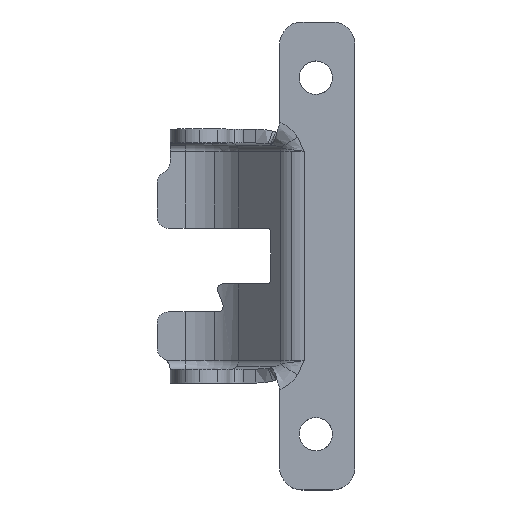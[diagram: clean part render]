
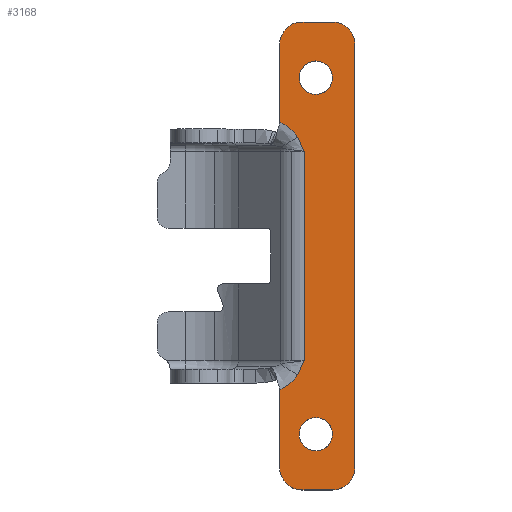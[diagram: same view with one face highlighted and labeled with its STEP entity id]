
A CAD part, top view. The second image highlights one B-rep face of the part: STEP entity #3168.
In plain terms, the highlighted planar face has unit normal (0, 0, 1).
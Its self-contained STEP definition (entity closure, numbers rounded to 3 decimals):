
#2123=AXIS2_PLACEMENT_3D('Circle Axis2P3D',#2121,#2122,$) ;
#2154=AXIS2_PLACEMENT_3D('Circle Axis2P3D',#2152,#2153,$) ;
#2202=AXIS2_PLACEMENT_3D('Circle Axis2P3D',#2200,#2201,$) ;
#2226=AXIS2_PLACEMENT_3D('Circle Axis2P3D',#2224,#2225,$) ;
#2274=AXIS2_PLACEMENT_3D('Circle Axis2P3D',#2272,#2273,$) ;
#2298=AXIS2_PLACEMENT_3D('Circle Axis2P3D',#2296,#2297,$) ;
#2484=AXIS2_PLACEMENT_3D('Circle Axis2P3D',#2482,#2483,$) ;
#2508=AXIS2_PLACEMENT_3D('Circle Axis2P3D',#2506,#2507,$) ;
#2549=AXIS2_PLACEMENT_3D('Circle Axis2P3D',#2547,#2548,$) ;
#2573=AXIS2_PLACEMENT_3D('Circle Axis2P3D',#2571,#2572,$) ;
#2597=AXIS2_PLACEMENT_3D('Circle Axis2P3D',#2595,#2596,$) ;
#2621=AXIS2_PLACEMENT_3D('Circle Axis2P3D',#2619,#2620,$) ;
#3127=AXIS2_PLACEMENT_3D('Plane Axis2P3D',#3124,#3125,#3126) ;
#1287=CARTESIAN_POINT('Vertex',(147.5,-24.01,28.)) ;
#2078=CARTESIAN_POINT('Vertex',(151.914,-18.8,28.)) ;
#2118=CARTESIAN_POINT('Vertex',(159.828,-40.828,28.)) ;
#2121=CARTESIAN_POINT('Axis2P3D Location',(157.,-38.,28.)) ;
#2125=CARTESIAN_POINT('Vertex',(157.,-42.,28.)) ;
#2149=CARTESIAN_POINT('Vertex',(161.,-38.,28.)) ;
#2152=CARTESIAN_POINT('Axis2P3D Location',(157.,-38.,28.)) ;
#2173=CARTESIAN_POINT('Vertex',(161.,38.,28.)) ;
#2176=CARTESIAN_POINT('Line Origine',(161.,0.,28.)) ;
#2197=CARTESIAN_POINT('Vertex',(159.828,40.828,28.)) ;
#2200=CARTESIAN_POINT('Axis2P3D Location',(157.,38.,28.)) ;
#2221=CARTESIAN_POINT('Vertex',(157.,42.,28.)) ;
#2224=CARTESIAN_POINT('Axis2P3D Location',(157.,38.,28.)) ;
#2245=CARTESIAN_POINT('Vertex',(151.5,42.,28.)) ;
#2248=CARTESIAN_POINT('Line Origine',(154.25,42.,28.)) ;
#2269=CARTESIAN_POINT('Vertex',(148.672,40.828,28.)) ;
#2272=CARTESIAN_POINT('Axis2P3D Location',(151.5,38.,28.)) ;
#2293=CARTESIAN_POINT('Vertex',(147.5,38.,28.)) ;
#2296=CARTESIAN_POINT('Axis2P3D Location',(151.5,38.,28.)) ;
#2340=CARTESIAN_POINT('Control Point',(151.914,-18.8,28.)) ;
#2341=CARTESIAN_POINT('Control Point',(151.689,-19.357,28.)) ;
#2342=CARTESIAN_POINT('Control Point',(151.454,-19.91,28.)) ;
#2343=CARTESIAN_POINT('Control Point',(151.193,-20.54,28.)) ;
#2344=CARTESIAN_POINT('Control Point',(150.723,-21.322,28.)) ;
#2345=CARTESIAN_POINT('Vertex',(150.723,-21.322,28.)) ;
#2426=CARTESIAN_POINT('Control Point',(150.723,-21.322,28.)) ;
#2427=CARTESIAN_POINT('Control Point',(150.419,-21.825,28.)) ;
#2428=CARTESIAN_POINT('Control Point',(150.05,-22.283,28.)) ;
#2429=CARTESIAN_POINT('Control Point',(149.632,-22.69,28.)) ;
#2430=CARTESIAN_POINT('Control Point',(148.964,-23.222,28.)) ;
#2431=CARTESIAN_POINT('Control Point',(148.238,-23.652,28.)) ;
#2432=CARTESIAN_POINT('Control Point',(147.996,-23.781,28.)) ;
#2433=CARTESIAN_POINT('Control Point',(147.75,-23.901,28.)) ;
#2434=CARTESIAN_POINT('Control Point',(147.5,-24.01,28.)) ;
#2455=CARTESIAN_POINT('Vertex',(147.5,-38.,28.)) ;
#2458=CARTESIAN_POINT('Line Origine',(147.5,-31.005,28.)) ;
#2479=CARTESIAN_POINT('Vertex',(148.672,-40.828,28.)) ;
#2482=CARTESIAN_POINT('Axis2P3D Location',(151.5,-38.,28.)) ;
#2503=CARTESIAN_POINT('Vertex',(151.5,-42.,28.)) ;
#2506=CARTESIAN_POINT('Axis2P3D Location',(151.5,-38.,28.)) ;
#2523=CARTESIAN_POINT('Line Origine',(154.25,-42.,28.)) ;
#2544=CARTESIAN_POINT('Vertex',(154.,-29.,28.)) ;
#2547=CARTESIAN_POINT('Axis2P3D Location',(154.,-32.,28.)) ;
#2551=CARTESIAN_POINT('Vertex',(154.,-35.,28.)) ;
#2571=CARTESIAN_POINT('Axis2P3D Location',(154.,-32.,28.)) ;
#2592=CARTESIAN_POINT('Vertex',(154.,29.,28.)) ;
#2595=CARTESIAN_POINT('Axis2P3D Location',(154.,32.,28.)) ;
#2599=CARTESIAN_POINT('Vertex',(154.,35.,28.)) ;
#2619=CARTESIAN_POINT('Axis2P3D Location',(154.,32.,28.)) ;
#2643=CARTESIAN_POINT('Vertex',(147.5,24.01,28.)) ;
#2646=CARTESIAN_POINT('Line Origine',(147.5,31.005,28.)) ;
#3041=CARTESIAN_POINT('Line Origine',(151.914,0.,28.)) ;
#3045=CARTESIAN_POINT('Vertex',(151.914,18.8,28.)) ;
#3099=CARTESIAN_POINT('Vertex',(150.723,21.322,28.)) ;
#3112=CARTESIAN_POINT('Control Point',(151.914,18.8,28.)) ;
#3113=CARTESIAN_POINT('Control Point',(151.689,19.357,28.)) ;
#3114=CARTESIAN_POINT('Control Point',(151.454,19.91,28.)) ;
#3115=CARTESIAN_POINT('Control Point',(151.193,20.54,28.)) ;
#3116=CARTESIAN_POINT('Control Point',(150.723,21.322,28.)) ;
#3124=CARTESIAN_POINT('Axis2P3D Location',(151.914,0.,28.)) ;
#3130=CARTESIAN_POINT('Control Point',(150.723,21.322,28.)) ;
#3131=CARTESIAN_POINT('Control Point',(150.472,21.737,28.)) ;
#3132=CARTESIAN_POINT('Control Point',(150.176,22.123,28.)) ;
#3133=CARTESIAN_POINT('Control Point',(149.843,22.476,28.)) ;
#3134=CARTESIAN_POINT('Control Point',(149.203,23.045,28.)) ;
#3135=CARTESIAN_POINT('Control Point',(148.492,23.511,28.)) ;
#3136=CARTESIAN_POINT('Control Point',(148.169,23.696,28.)) ;
#3137=CARTESIAN_POINT('Control Point',(147.838,23.862,28.)) ;
#3138=CARTESIAN_POINT('Control Point',(147.5,24.01,28.)) ;
#2122=DIRECTION('Axis2P3D Direction',(0.,0.,-1.)) ;
#2153=DIRECTION('Axis2P3D Direction',(0.,0.,-1.)) ;
#2177=DIRECTION('Vector Direction',(0.,-1.,0.)) ;
#2201=DIRECTION('Axis2P3D Direction',(0.,0.,-1.)) ;
#2225=DIRECTION('Axis2P3D Direction',(0.,-0.,-1.)) ;
#2249=DIRECTION('Vector Direction',(1.,0.,0.)) ;
#2273=DIRECTION('Axis2P3D Direction',(0.,0.,-1.)) ;
#2297=DIRECTION('Axis2P3D Direction',(0.,-0.,-1.)) ;
#2459=DIRECTION('Vector Direction',(0.,-1.,0.)) ;
#2483=DIRECTION('Axis2P3D Direction',(-0.,0.,-1.)) ;
#2507=DIRECTION('Axis2P3D Direction',(0.,0.,-1.)) ;
#2524=DIRECTION('Vector Direction',(-1.,0.,0.)) ;
#2548=DIRECTION('Axis2P3D Direction',(0.,-0.,1.)) ;
#2572=DIRECTION('Axis2P3D Direction',(0.,0.,1.)) ;
#2596=DIRECTION('Axis2P3D Direction',(0.,0.,1.)) ;
#2620=DIRECTION('Axis2P3D Direction',(0.,-0.,1.)) ;
#2647=DIRECTION('Vector Direction',(0.,1.,0.)) ;
#3042=DIRECTION('Vector Direction',(0.,-1.,0.)) ;
#3125=DIRECTION('Axis2P3D Direction',(0.,-0.,-1.)) ;
#3126=DIRECTION('Axis2P3D XDirection',(1.,0.,-0.)) ;
#2178=VECTOR('Line Direction',#2177,1.) ;
#2250=VECTOR('Line Direction',#2249,1.) ;
#2460=VECTOR('Line Direction',#2459,1.) ;
#2525=VECTOR('Line Direction',#2524,1.) ;
#2648=VECTOR('Line Direction',#2647,1.) ;
#3043=VECTOR('Line Direction',#3042,1.) ;
#3141=ORIENTED_EDGE('',*,*,#2127,.F.) ;
#3142=ORIENTED_EDGE('',*,*,#2156,.F.) ;
#3143=ORIENTED_EDGE('',*,*,#2180,.F.) ;
#3144=ORIENTED_EDGE('',*,*,#2204,.F.) ;
#3145=ORIENTED_EDGE('',*,*,#2228,.F.) ;
#3146=ORIENTED_EDGE('',*,*,#2252,.F.) ;
#3147=ORIENTED_EDGE('',*,*,#2276,.F.) ;
#3148=ORIENTED_EDGE('',*,*,#2300,.F.) ;
#3149=ORIENTED_EDGE('',*,*,#2650,.F.) ;
#3150=ORIENTED_EDGE('',*,*,#3139,.F.) ;
#3151=ORIENTED_EDGE('',*,*,#3117,.F.) ;
#3152=ORIENTED_EDGE('',*,*,#3047,.T.) ;
#3153=ORIENTED_EDGE('',*,*,#2347,.T.) ;
#3154=ORIENTED_EDGE('',*,*,#2435,.T.) ;
#3155=ORIENTED_EDGE('',*,*,#2462,.T.) ;
#3156=ORIENTED_EDGE('',*,*,#2486,.T.) ;
#3157=ORIENTED_EDGE('',*,*,#2510,.T.) ;
#3158=ORIENTED_EDGE('',*,*,#2527,.F.) ;
#3161=ORIENTED_EDGE('',*,*,#2553,.T.) ;
#3162=ORIENTED_EDGE('',*,*,#2575,.T.) ;
#3165=ORIENTED_EDGE('',*,*,#2601,.T.) ;
#3166=ORIENTED_EDGE('',*,*,#2623,.T.) ;
#3163=FACE_BOUND('',#3160,.T.) ;
#3167=FACE_BOUND('',#3164,.T.) ;
#3168=ADVANCED_FACE('\X2\66F46539540E\X0\',(#3159,#3163,#3167),#3128,.F.) ;
#2339=B_SPLINE_CURVE_WITH_KNOTS('',4,(#2340,#2341,#2342,#2343,#2344),.UNSPECIFIED.,.F.,.U.,(5,5),(0.,3.602),.UNSPECIFIED.) ;
#2425=B_SPLINE_CURVE_WITH_KNOTS('',5,(#2426,#2427,#2428,#2429,#2430,#2431,#2432,#2433,#2434),.UNSPECIFIED.,.F.,.U.,(6,3,6),(19.433,21.517,22.525),.UNSPECIFIED.) ;
#3111=B_SPLINE_CURVE_WITH_KNOTS('',4,(#3112,#3113,#3114,#3115,#3116),.UNSPECIFIED.,.F.,.U.,(5,5),(0.,3.602),.UNSPECIFIED.) ;
#3129=B_SPLINE_CURVE_WITH_KNOTS('',5,(#3130,#3131,#3132,#3133,#3134,#3135,#3136,#3137,#3138),.UNSPECIFIED.,.F.,.U.,(6,3,6),(0.,3.397,6.037),.UNSPECIFIED.) ;
#2124=CIRCLE('generated circle',#2123,4.) ;
#2155=CIRCLE('generated circle',#2154,4.) ;
#2203=CIRCLE('generated circle',#2202,4.) ;
#2227=CIRCLE('generated circle',#2226,4.) ;
#2275=CIRCLE('generated circle',#2274,4.) ;
#2299=CIRCLE('generated circle',#2298,4.) ;
#2485=CIRCLE('generated circle',#2484,4.) ;
#2509=CIRCLE('generated circle',#2508,4.) ;
#2550=CIRCLE('generated circle',#2549,3.) ;
#2574=CIRCLE('generated circle',#2573,3.) ;
#2598=CIRCLE('generated circle',#2597,3.) ;
#2622=CIRCLE('generated circle',#2621,3.) ;
#2127=EDGE_CURVE('',#2119,#2126,#2124,.T.) ;
#2156=EDGE_CURVE('',#2150,#2119,#2155,.T.) ;
#2180=EDGE_CURVE('',#2174,#2150,#2179,.T.) ;
#2204=EDGE_CURVE('',#2198,#2174,#2203,.T.) ;
#2228=EDGE_CURVE('',#2222,#2198,#2227,.T.) ;
#2252=EDGE_CURVE('',#2246,#2222,#2251,.T.) ;
#2276=EDGE_CURVE('',#2270,#2246,#2275,.T.) ;
#2300=EDGE_CURVE('',#2294,#2270,#2299,.T.) ;
#2347=EDGE_CURVE('',#2079,#2346,#2339,.T.) ;
#2435=EDGE_CURVE('',#2346,#1288,#2425,.T.) ;
#2462=EDGE_CURVE('',#1288,#2456,#2461,.T.) ;
#2486=EDGE_CURVE('',#2456,#2480,#2485,.F.) ;
#2510=EDGE_CURVE('',#2480,#2504,#2509,.F.) ;
#2527=EDGE_CURVE('',#2126,#2504,#2526,.T.) ;
#2553=EDGE_CURVE('',#2552,#2545,#2550,.F.) ;
#2575=EDGE_CURVE('',#2545,#2552,#2574,.F.) ;
#2601=EDGE_CURVE('',#2600,#2593,#2598,.F.) ;
#2623=EDGE_CURVE('',#2593,#2600,#2622,.F.) ;
#2650=EDGE_CURVE('',#2644,#2294,#2649,.T.) ;
#3047=EDGE_CURVE('',#3046,#2079,#3044,.T.) ;
#3117=EDGE_CURVE('',#3046,#3100,#3111,.T.) ;
#3139=EDGE_CURVE('',#3100,#2644,#3129,.T.) ;
#3140=EDGE_LOOP('',(#3141,#3142,#3143,#3144,#3145,#3146,#3147,#3148,#3149,#3150,#3151,#3152,#3153,#3154,#3155,#3156,#3157,#3158)) ;
#3160=EDGE_LOOP('',(#3161,#3162)) ;
#3164=EDGE_LOOP('',(#3165,#3166)) ;
#3159=FACE_OUTER_BOUND('',#3140,.T.) ;
#2179=LINE('Line',#2176,#2178) ;
#2251=LINE('Line',#2248,#2250) ;
#2461=LINE('Line',#2458,#2460) ;
#2526=LINE('Line',#2523,#2525) ;
#2649=LINE('Line',#2646,#2648) ;
#3044=LINE('Line',#3041,#3043) ;
#3128=PLANE('Plane',#3127) ;
#1288=VERTEX_POINT('',#1287) ;
#2079=VERTEX_POINT('',#2078) ;
#2119=VERTEX_POINT('',#2118) ;
#2126=VERTEX_POINT('',#2125) ;
#2150=VERTEX_POINT('',#2149) ;
#2174=VERTEX_POINT('',#2173) ;
#2198=VERTEX_POINT('',#2197) ;
#2222=VERTEX_POINT('',#2221) ;
#2246=VERTEX_POINT('',#2245) ;
#2270=VERTEX_POINT('',#2269) ;
#2294=VERTEX_POINT('',#2293) ;
#2346=VERTEX_POINT('',#2345) ;
#2456=VERTEX_POINT('',#2455) ;
#2480=VERTEX_POINT('',#2479) ;
#2504=VERTEX_POINT('',#2503) ;
#2545=VERTEX_POINT('',#2544) ;
#2552=VERTEX_POINT('',#2551) ;
#2593=VERTEX_POINT('',#2592) ;
#2600=VERTEX_POINT('',#2599) ;
#2644=VERTEX_POINT('',#2643) ;
#3046=VERTEX_POINT('',#3045) ;
#3100=VERTEX_POINT('',#3099) ;
